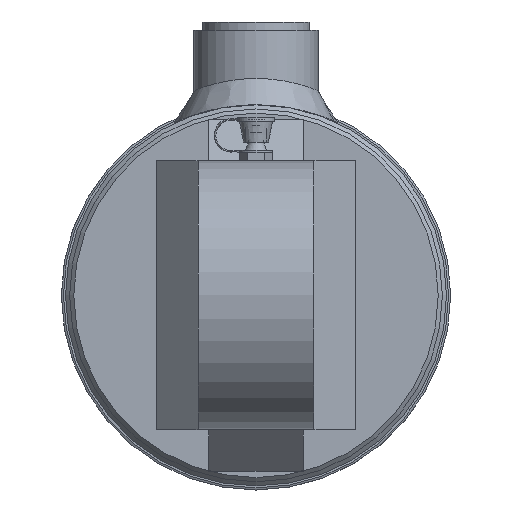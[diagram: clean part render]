
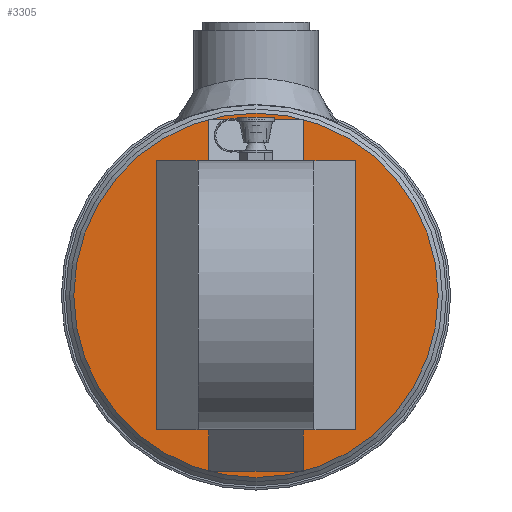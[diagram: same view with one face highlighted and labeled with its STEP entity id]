
A CAD part, left-side view. The second image highlights one B-rep face of the part: STEP entity #3305.
In plain terms, the highlighted planar face has unit normal (-1, 0, 0).
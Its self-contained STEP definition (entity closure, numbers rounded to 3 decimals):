
#3305 = ADVANCED_FACE( '', ( #7964 ), #7965, .T. );
#7964 = FACE_OUTER_BOUND( '', #10403, .T. );
#7965 = PLANE( '', #10404 );
#10403 = EDGE_LOOP( '', ( #11488 ) );
#10404 = AXIS2_PLACEMENT_3D( '', #11489, #11490, #11491 );
#11488 = ORIENTED_EDGE( '', *, *, #12614, .T. );
#11489 = CARTESIAN_POINT( '', ( -12., 0., 0. ) );
#11490 = DIRECTION( '', ( -1., 0., 0. ) );
#11491 = DIRECTION( '', ( 0., -1., 0. ) );
#12614 = EDGE_CURVE( '', #15283, #15283, #15284, .T. );
#15283 = VERTEX_POINT( '', #16675 );
#15284 = CIRCLE( '', #16676, 44. );
#16675 = CARTESIAN_POINT( '', ( -12., -44., 0. ) );
#16676 = AXIS2_PLACEMENT_3D( '', #16891, #16892, #16893 );
#16891 = CARTESIAN_POINT( '', ( -12., 0., 0. ) );
#16892 = DIRECTION( '', ( -1., 0., 0. ) );
#16893 = DIRECTION( '', ( 0., -1., 0. ) );
